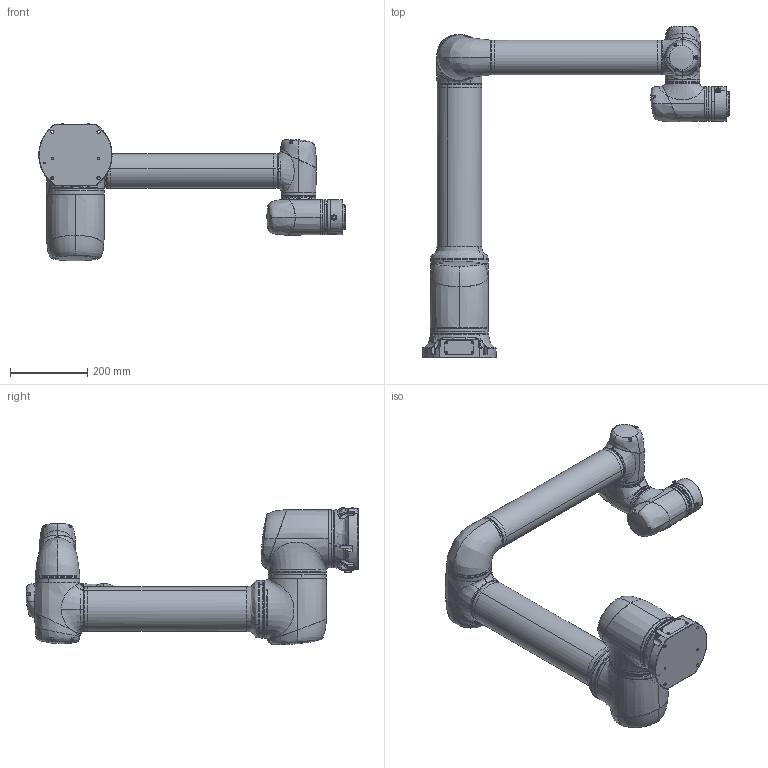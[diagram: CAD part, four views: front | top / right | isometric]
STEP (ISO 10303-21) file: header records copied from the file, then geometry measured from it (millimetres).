
FILE_DESCRIPTION (( 'STEP AP214' ), '1' );
FILE_NAME ('RC13-12掛极耀倰 20260526.STEP', '2026-06-08T10:51:46', ( 'Windows User' ), ( 'P R C' ), 'SwSTEP 2.0', 'SolidWorks 2021', '' );
FILE_SCHEMA (( 'AUTOMOTIVE_DESIGN' ));
Length unit declared in the file: millimetre
Products named in the file (9): J1耀郪; 湮旋; J4耀郪; RC13-12掛极耀倰 20260526; 苤旋; 菁釱郪璃; 勂窒; 藺傷楊擘; J3耀郪
Assembly tree (11 placements, depth 2):
  RC13-12掛极耀倰 20260526
    菁釱郪璃
    J1耀郪  x2
    湮旋
    J3耀郪
    勂窒
    苤旋
    J4耀郪  x3
    藺傷楊擘
Bounding box: 794.17 x 860.39 x 356.91 mm (x, y, z)
Volume: 22988169.7 mm3; surface area: 1116957 mm2
Topology: 11 solids, 11 shells, 3313 faces, 7786 edges, 4859 vertices
Faces by surface type: plane 1353, cylinder 1169, cone 285, torus 238, bspline 218, sphere 50
Entity records: 102323 total; most frequent: CARTESIAN_POINT 58638, DIRECTION 7969, ORIENTED_EDGE 7762, EDGE_CURVE 3881, AXIS2_PLACEMENT_3D 3143, VERTEX_POINT 2447, EDGE_LOOP 1904, VECTOR 1683
